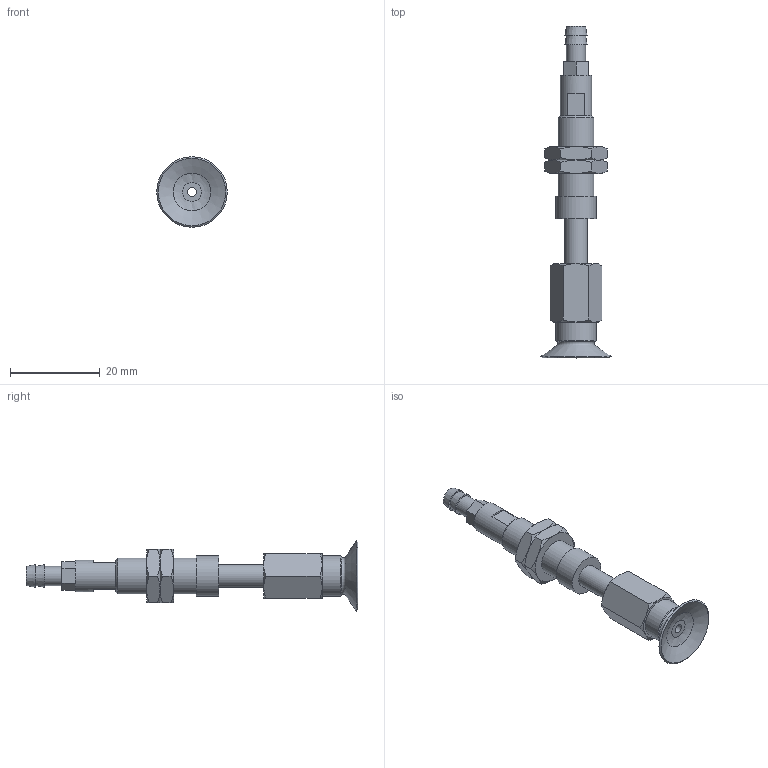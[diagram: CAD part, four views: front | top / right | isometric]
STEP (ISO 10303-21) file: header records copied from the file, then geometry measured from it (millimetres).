
FILE_DESCRIPTION(('STEP AP203'),'1');
FILE_NAME('-T.stp','2025-08-27T05:52:43',(' '),(' '),'Spatial InterOp 3D',' ',' ');
FILE_SCHEMA(('CONFIG_CONTROL_DESIGN'));
Length unit declared in the file: millimetre
Products named in the file (7): BNABPFTS-15A-10-※-T; ADAPTER; NAPATS-10A-10--M; Nut-15A-10-s; NAPFTS-15A-10-FBODY; BPFG-15A-※; T
Assembly tree (7 placements, depth 2):
  BNABPFTS-15A-10-※-T
    ADAPTER
    NAPATS-10A-10--M
    Nut-15A-10-s  x2
    NAPFTS-15A-10-FBODY
    BPFG-15A-※
    T
Bounding box: 15.7 x 74 x 15.7 mm (x, y, z)
Volume: 3788.9 mm3; surface area: 4694.5 mm2
Topology: 7 solids, 7 shells, 131 faces, 269 edges, 163 vertices
Faces by surface type: plane 53, cone 49, cylinder 19, torus 9, bspline 1
Full cylindrical faces by diameter (mm): 2 x3, 3 x1, 4 x2, 4.134 x1, 4.3 x1, 5 x3, 6 x2, 7 x1, 7.188 x2, 8 x1, 9 x2
Entity records: 3149 total; most frequent: CARTESIAN_POINT 733, DIRECTION 442, ORIENTED_EDGE 348, AXIS2_PLACEMENT_3D 201, EDGE_CURVE 174, EDGE_LOOP 170, FACE_OUTER_BOUND 136, VERTEX_POINT 128
